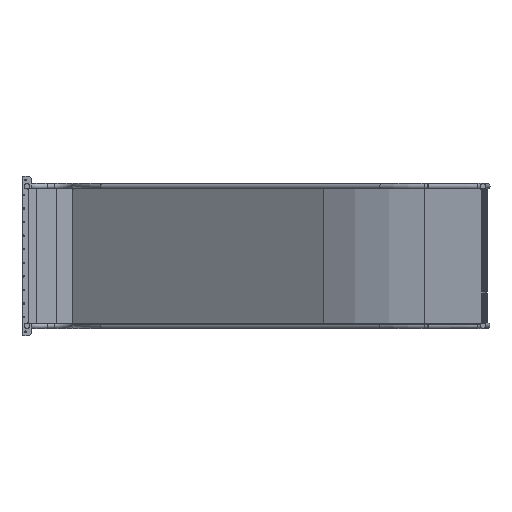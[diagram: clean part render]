
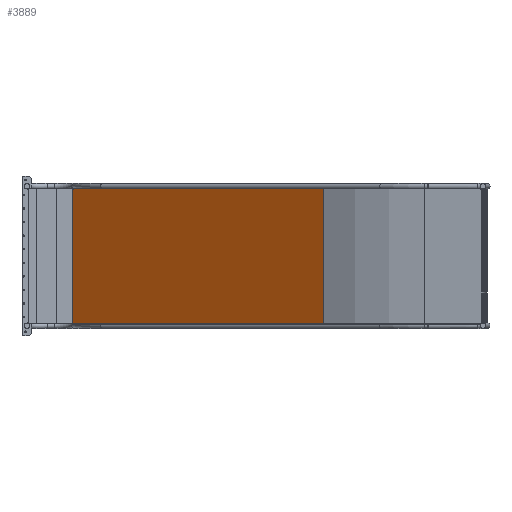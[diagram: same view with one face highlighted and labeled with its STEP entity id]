
A CAD part, left-side view. The second image highlights one B-rep face of the part: STEP entity #3889.
In plain terms, the highlighted planar face has unit normal (-0.788, 0.616, 0) as drawn and (0, -1, 0) by its records, which use the part's own axes.
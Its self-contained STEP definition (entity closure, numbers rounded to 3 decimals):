
#540=FACE_OUTER_BOUND('',#770,.T.);
#770=EDGE_LOOP('',(#3032,#3033,#3034,#3035,#3036,#3037,#3038,#3039));
#1104=LINE('',#6895,#1458);
#1109=LINE('',#6913,#1463);
#1116=LINE('',#7121,#1470);
#1117=LINE('',#7123,#1471);
#1118=LINE('',#7125,#1472);
#1119=LINE('',#7127,#1473);
#1120=LINE('',#7129,#1474);
#1121=LINE('',#7130,#1475);
#1458=VECTOR('',#5123,10.);
#1463=VECTOR('',#5132,10.);
#1470=VECTOR('',#5147,10.);
#1471=VECTOR('',#5148,10.);
#1472=VECTOR('',#5149,10.);
#1473=VECTOR('',#5150,10.);
#1474=VECTOR('',#5151,10.);
#1475=VECTOR('',#5152,10.);
#1773=VERTEX_POINT('',#6872);
#1778=VERTEX_POINT('',#6882);
#1787=VERTEX_POINT('',#6912);
#1794=VERTEX_POINT('',#7120);
#1795=VERTEX_POINT('',#7122);
#1796=VERTEX_POINT('',#7124);
#1797=VERTEX_POINT('',#7126);
#1798=VERTEX_POINT('',#7128);
#2220=EDGE_CURVE('',#1778,#1773,#1104,.T.);
#2226=EDGE_CURVE('',#1773,#1787,#1109,.T.);
#2236=EDGE_CURVE('',#1778,#1794,#1116,.T.);
#2237=EDGE_CURVE('',#1794,#1795,#1117,.T.);
#2238=EDGE_CURVE('',#1795,#1796,#1118,.T.);
#2239=EDGE_CURVE('',#1796,#1797,#1119,.T.);
#2240=EDGE_CURVE('',#1798,#1797,#1120,.T.);
#2241=EDGE_CURVE('',#1787,#1798,#1121,.T.);
#3032=ORIENTED_EDGE('',*,*,#2226,.F.);
#3033=ORIENTED_EDGE('',*,*,#2220,.F.);
#3034=ORIENTED_EDGE('',*,*,#2236,.T.);
#3035=ORIENTED_EDGE('',*,*,#2237,.T.);
#3036=ORIENTED_EDGE('',*,*,#2238,.T.);
#3037=ORIENTED_EDGE('',*,*,#2239,.T.);
#3038=ORIENTED_EDGE('',*,*,#2240,.F.);
#3039=ORIENTED_EDGE('',*,*,#2241,.F.);
#3729=PLANE('',#4359);
#3889=ADVANCED_FACE('',(#540),#3729,.F.);
#4359=AXIS2_PLACEMENT_3D('',#7119,#5145,#5146);
#5123=DIRECTION('',(0.,0.,1.));
#5132=DIRECTION('',(1.,0.,0.));
#5145=DIRECTION('center_axis',(0.,1.,0.));
#5146=DIRECTION('ref_axis',(0.,0.,1.));
#5147=DIRECTION('',(1.,0.,0.));
#5148=DIRECTION('',(0.,0.,1.));
#5149=DIRECTION('',(1.,0.,0.));
#5150=DIRECTION('',(0.,0.,1.));
#5151=DIRECTION('',(1.,0.,0.));
#5152=DIRECTION('',(0.,0.,-1.));
#6872=CARTESIAN_POINT('',(-2277.964,0.,-116.524));
#6882=CARTESIAN_POINT('',(-2277.964,0.,-1040.053));
#6895=CARTESIAN_POINT('',(-2277.964,0.,-222.38));
#6912=CARTESIAN_POINT('',(-98.919,0.,-116.524));
#6913=CARTESIAN_POINT('',(-456.675,0.,-116.524));
#7119=CARTESIAN_POINT('Origin',(-206.675,0.,-328.236));
#7120=CARTESIAN_POINT('',(-98.919,0.,-1040.053));
#7121=CARTESIAN_POINT('',(-355.82,0.,-1040.053));
#7122=CARTESIAN_POINT('',(-98.919,0.,-1039.053));
#7123=CARTESIAN_POINT('',(-98.919,0.,-685.144));
#7124=CARTESIAN_POINT('',(-97.342,0.,-1039.053));
#7125=CARTESIAN_POINT('',(-152.797,0.,-1039.053));
#7126=CARTESIAN_POINT('',(-97.342,0.,-118.236));
#7127=CARTESIAN_POINT('',(-97.342,0.,-223.236));
#7128=CARTESIAN_POINT('',(-98.919,0.,-118.236));
#7129=CARTESIAN_POINT('',(-98.919,0.,-118.236));
#7130=CARTESIAN_POINT('',(-98.919,0.,-113.712));
